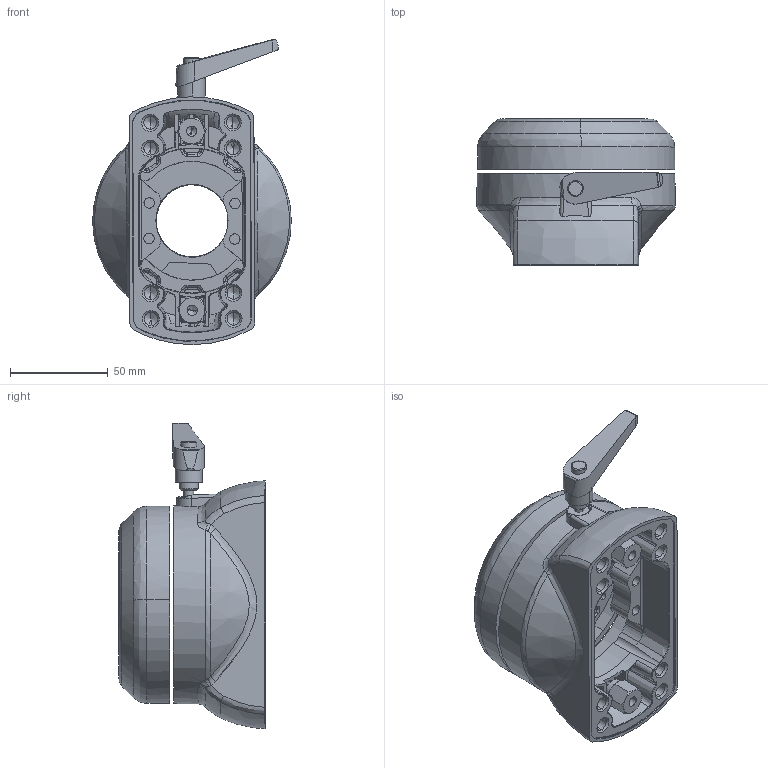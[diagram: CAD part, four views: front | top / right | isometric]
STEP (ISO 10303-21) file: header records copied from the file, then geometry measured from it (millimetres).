
FILE_DESCRIPTION (( 'STEP AP203' ), '1' );
FILE_NAME ('TP045_6740.STEP', '2026-09-30T08:30:05', ( '' ), ( '' ), 'SwSTEP 2.0', 'SolidWorks 2015', '' );
FILE_SCHEMA (( 'CONFIG_CONTROL_DESIGN' ));
Length unit declared in the file: millimetre
Products named in the file (6): TP.045.Serrated Washer; TP.045.700; TP045_6740; Vida_Yükseltme; TP.045.700_1; TP.045.Disk
Assembly tree (6 placements, depth 3):
  TP045_6740
    TP.045.700
      TP.045.700_1
      Vida_Yükseltme  x2
      TP.045.Serrated Washer
    TP.045.Disk
Bounding box: 101.5 x 74.77 x 155.91 mm (x, y, z)
Volume: 229221.8 mm3; surface area: 82963.5 mm2
Topology: 5 solids, 13 shells, 1189 faces, 2898 edges, 1711 vertices
Faces by surface type: bspline 348, cylinder 313, cone 204, plane 165, torus 159
Entity records: 57706 total; most frequent: CARTESIAN_POINT 33170, ORIENTED_EDGE 5438, DIRECTION 4279, EDGE_CURVE 2719, AXIS2_PLACEMENT_3D 1773, VERTEX_POINT 1644, EDGE_LOOP 1205, ADVANCED_FACE 1141
